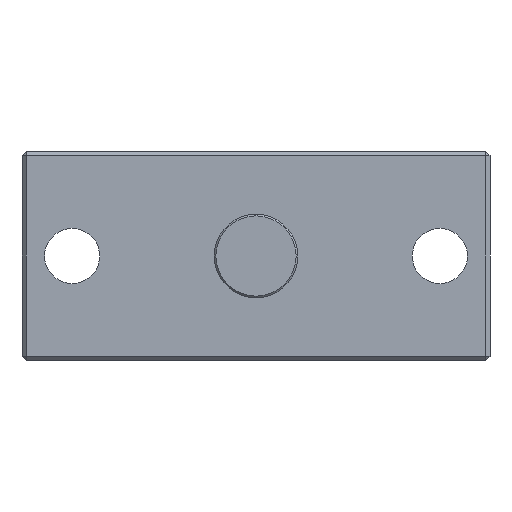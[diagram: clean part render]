
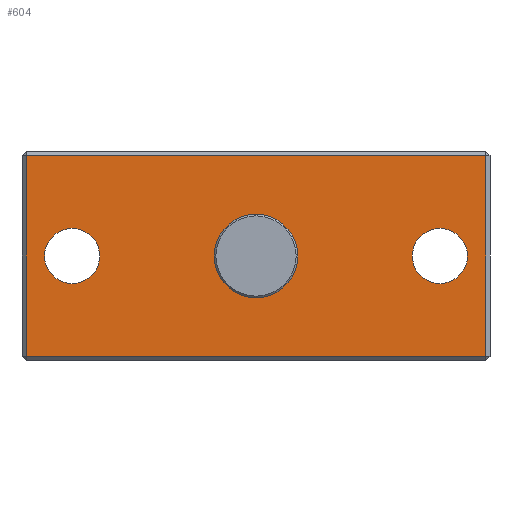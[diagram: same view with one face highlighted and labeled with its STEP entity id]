
A CAD part, left-side view. The second image highlights one B-rep face of the part: STEP entity #604.
In plain terms, the highlighted planar face has unit normal (-1, 0, 0).
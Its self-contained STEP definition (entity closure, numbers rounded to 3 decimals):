
#24 = CARTESIAN_POINT ( 'NONE',  ( -4.5, 0., 0. ) ) ;
#62 = DIRECTION ( 'NONE',  ( 1., 0., 0. ) ) ;
#63 = CARTESIAN_POINT ( 'NONE',  ( -4.5, -27.5, -12. ) ) ;
#69 = CARTESIAN_POINT ( 'NONE',  ( -4.5, 0., -5. ) ) ;
#78 = AXIS2_PLACEMENT_3D ( 'NONE', #1599, #685, #2088 ) ;
#87 = ORIENTED_EDGE ( 'NONE', *, *, #551, .T. ) ;
#158 = CARTESIAN_POINT ( 'NONE',  ( -4.5, -27.5, 12. ) ) ;
#206 = ORIENTED_EDGE ( 'NONE', *, *, #644, .T. ) ;
#211 = EDGE_CURVE ( 'NONE', #222, #1997, #662, .T. ) ;
#222 = VERTEX_POINT ( 'NONE', #1752 ) ;
#248 = VERTEX_POINT ( 'NONE', #69 ) ;
#252 = LINE ( 'NONE', #1546, #688 ) ;
#254 = ORIENTED_EDGE ( 'NONE', *, *, #347, .T. ) ;
#291 = DIRECTION ( 'NONE',  ( 1., 0., 0. ) ) ;
#305 = DIRECTION ( 'NONE',  ( 0., 0., -1. ) ) ;
#343 = CARTESIAN_POINT ( 'NONE',  ( -4.5, 27.5, 0. ) ) ;
#347 = EDGE_CURVE ( 'NONE', #1948, #494, #1195, .T. ) ;
#398 = CARTESIAN_POINT ( 'NONE',  ( -4.5, 0., -12. ) ) ;
#494 = VERTEX_POINT ( 'NONE', #981 ) ;
#546 = DIRECTION ( 'NONE',  ( 1., 0., 0. ) ) ;
#551 = EDGE_CURVE ( 'NONE', #2431, #2401, #252, .T. ) ;
#604 = ADVANCED_FACE ( 'NONE', ( #1193, #1229, #2444, #2486 ), #1457, .F. ) ;
#644 = EDGE_CURVE ( 'NONE', #1997, #222, #1718, .T. ) ;
#652 = DIRECTION ( 'NONE',  ( 1., 0., 0. ) ) ;
#655 = CIRCLE ( 'NONE', #2471, 3.3 ) ;
#662 = CIRCLE ( 'NONE', #78, 3.3 ) ;
#670 = DIRECTION ( 'NONE',  ( 0., 0., 1. ) ) ;
#685 = DIRECTION ( 'NONE',  ( 1., 0., 0. ) ) ;
#688 = VECTOR ( 'NONE', #670, 1000. ) ;
#721 = VERTEX_POINT ( 'NONE', #2172 ) ;
#775 = AXIS2_PLACEMENT_3D ( 'NONE', #1391, #652, #305 ) ;
#819 = ORIENTED_EDGE ( 'NONE', *, *, #2183, .T. ) ;
#840 = LINE ( 'NONE', #343, #2314 ) ;
#858 = CIRCLE ( 'NONE', #1373, 5. ) ;
#868 = DIRECTION ( 'NONE',  ( 0., 0., -1. ) ) ;
#910 = EDGE_CURVE ( 'NONE', #2401, #1378, #1217, .T. ) ;
#920 = CARTESIAN_POINT ( 'NONE',  ( -4.5, 22., 0. ) ) ;
#964 = VECTOR ( 'NONE', #1804, 1000. ) ;
#981 = CARTESIAN_POINT ( 'NONE',  ( -4.5, -22., 3.3 ) ) ;
#1032 = CARTESIAN_POINT ( 'NONE',  ( -4.5, 0., 0. ) ) ;
#1059 = ORIENTED_EDGE ( 'NONE', *, *, #1348, .T. ) ;
#1193 = FACE_OUTER_BOUND ( 'NONE', #2041, .T. ) ;
#1195 = CIRCLE ( 'NONE', #775, 3.3 ) ;
#1197 = EDGE_CURVE ( 'NONE', #1375, #2431, #2386, .T. ) ;
#1217 = LINE ( 'NONE', #2061, #2081 ) ;
#1229 = FACE_BOUND ( 'NONE', #1305, .T. ) ;
#1305 = EDGE_LOOP ( 'NONE', ( #1946, #1661 ) ) ;
#1348 = EDGE_CURVE ( 'NONE', #494, #1948, #655, .T. ) ;
#1373 = AXIS2_PLACEMENT_3D ( 'NONE', #1032, #2323, #868 ) ;
#1375 = VERTEX_POINT ( 'NONE', #1591 ) ;
#1378 = VERTEX_POINT ( 'NONE', #1791 ) ;
#1391 = CARTESIAN_POINT ( 'NONE',  ( -4.5, -22., 0. ) ) ;
#1410 = EDGE_LOOP ( 'NONE', ( #206, #1620 ) ) ;
#1416 = CARTESIAN_POINT ( 'NONE',  ( -4.5, -22., -3.3 ) ) ;
#1440 = DIRECTION ( 'NONE',  ( 0., 1., 0. ) ) ;
#1457 = PLANE ( 'NONE',  #2430 ) ;
#1463 = CIRCLE ( 'NONE', #2189, 5. ) ;
#1546 = CARTESIAN_POINT ( 'NONE',  ( -4.5, -27.5, 0. ) ) ;
#1588 = DIRECTION ( 'NONE',  ( 0., 0., -1. ) ) ;
#1591 = CARTESIAN_POINT ( 'NONE',  ( -4.5, 27.5, -12. ) ) ;
#1599 = CARTESIAN_POINT ( 'NONE',  ( -4.5, 22., 0. ) ) ;
#1620 = ORIENTED_EDGE ( 'NONE', *, *, #211, .T. ) ;
#1634 = CARTESIAN_POINT ( 'NONE',  ( -4.5, -22., 0. ) ) ;
#1661 = ORIENTED_EDGE ( 'NONE', *, *, #2040, .T. ) ;
#1718 = CIRCLE ( 'NONE', #2448, 3.3 ) ;
#1752 = CARTESIAN_POINT ( 'NONE',  ( -4.5, 22., 3.3 ) ) ;
#1791 = CARTESIAN_POINT ( 'NONE',  ( -4.5, 27.5, 12. ) ) ;
#1804 = DIRECTION ( 'NONE',  ( 0., -1., 0. ) ) ;
#1855 = ORIENTED_EDGE ( 'NONE', *, *, #1197, .T. ) ;
#1868 = ORIENTED_EDGE ( 'NONE', *, *, #910, .T. ) ;
#1911 = DIRECTION ( 'NONE',  ( 0., 0., -1. ) ) ;
#1929 = EDGE_CURVE ( 'NONE', #248, #721, #858, .T. ) ;
#1946 = ORIENTED_EDGE ( 'NONE', *, *, #1929, .T. ) ;
#1948 = VERTEX_POINT ( 'NONE', #1416 ) ;
#1959 = DIRECTION ( 'NONE',  ( 1., 0., 0. ) ) ;
#1997 = VERTEX_POINT ( 'NONE', #2361 ) ;
#2040 = EDGE_CURVE ( 'NONE', #721, #248, #1463, .T. ) ;
#2041 = EDGE_LOOP ( 'NONE', ( #1855, #87, #1868, #819 ) ) ;
#2047 = DIRECTION ( 'NONE',  ( 0., 0., -1. ) ) ;
#2061 = CARTESIAN_POINT ( 'NONE',  ( -4.5, 0., 12. ) ) ;
#2067 = EDGE_LOOP ( 'NONE', ( #254, #1059 ) ) ;
#2075 = DIRECTION ( 'NONE',  ( 0., 0., -1. ) ) ;
#2081 = VECTOR ( 'NONE', #1440, 1000. ) ;
#2088 = DIRECTION ( 'NONE',  ( 0., 0., -1. ) ) ;
#2172 = CARTESIAN_POINT ( 'NONE',  ( -4.5, 0., 5. ) ) ;
#2183 = EDGE_CURVE ( 'NONE', #1378, #1375, #840, .T. ) ;
#2189 = AXIS2_PLACEMENT_3D ( 'NONE', #2365, #62, #1911 ) ;
#2314 = VECTOR ( 'NONE', #2047, 1000. ) ;
#2323 = DIRECTION ( 'NONE',  ( 1., 0., 0. ) ) ;
#2361 = CARTESIAN_POINT ( 'NONE',  ( -4.5, 22., -3.3 ) ) ;
#2365 = CARTESIAN_POINT ( 'NONE',  ( -4.5, 0., 0. ) ) ;
#2386 = LINE ( 'NONE', #398, #964 ) ;
#2401 = VERTEX_POINT ( 'NONE', #158 ) ;
#2413 = DIRECTION ( 'NONE',  ( 0., 0., -1. ) ) ;
#2430 = AXIS2_PLACEMENT_3D ( 'NONE', #24, #546, #1588 ) ;
#2431 = VERTEX_POINT ( 'NONE', #63 ) ;
#2444 = FACE_BOUND ( 'NONE', #2067, .T. ) ;
#2448 = AXIS2_PLACEMENT_3D ( 'NONE', #920, #291, #2075 ) ;
#2471 = AXIS2_PLACEMENT_3D ( 'NONE', #1634, #1959, #2413 ) ;
#2486 = FACE_BOUND ( 'NONE', #1410, .T. ) ;
